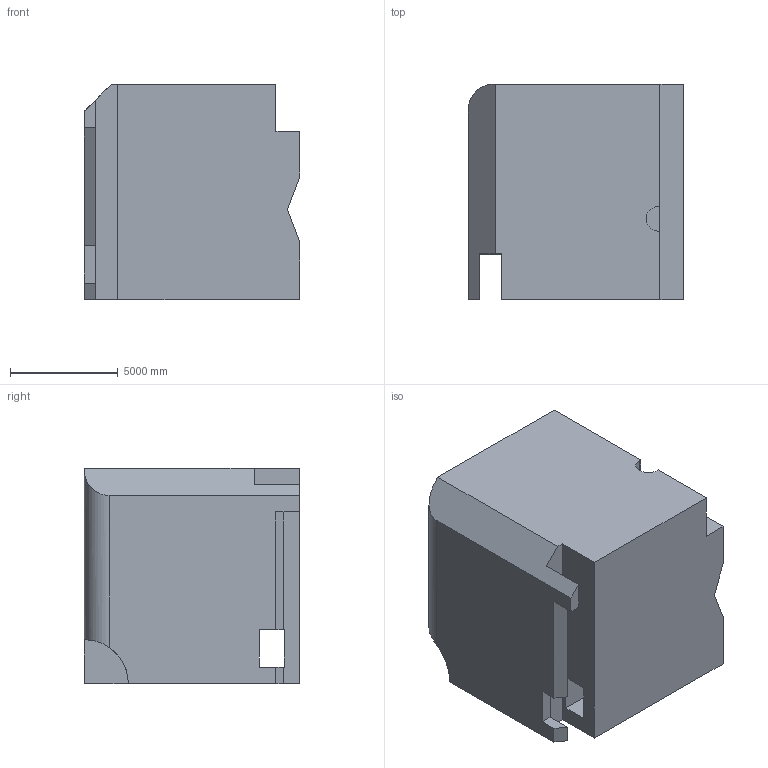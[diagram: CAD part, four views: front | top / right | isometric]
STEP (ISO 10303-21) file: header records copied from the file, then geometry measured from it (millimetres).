
FILE_DESCRIPTION (( 'STEP AP203' ), '1' );
FILE_NAME ('196.STEP', '2022-08-31T14:37:41', ( 'user' ), ( '' ), 'SwSTEP 2.0', 'SolidWorks 2021', '' );
FILE_SCHEMA (( 'CONFIG_CONTROL_DESIGN' ));
Length unit declared in the file: centimetre
Products named in the file (1): 196
Bounding box: 10000 x 10000 x 10000 mm (x, y, z)
Volume: 882141224814.3 mm3; surface area: 658741838 mm2
Topology: 1 solids, 1 shells, 37 faces, 102 edges, 68 vertices
Faces by surface type: plane 34, cylinder 3
Entity records: 1307 total; most frequent: CARTESIAN_POINT 279, ORIENTED_EDGE 204, DIRECTION 180, EDGE_CURVE 102, LINE 96, VECTOR 96, VERTEX_POINT 68, AXIS2_PLACEMENT_3D 42
